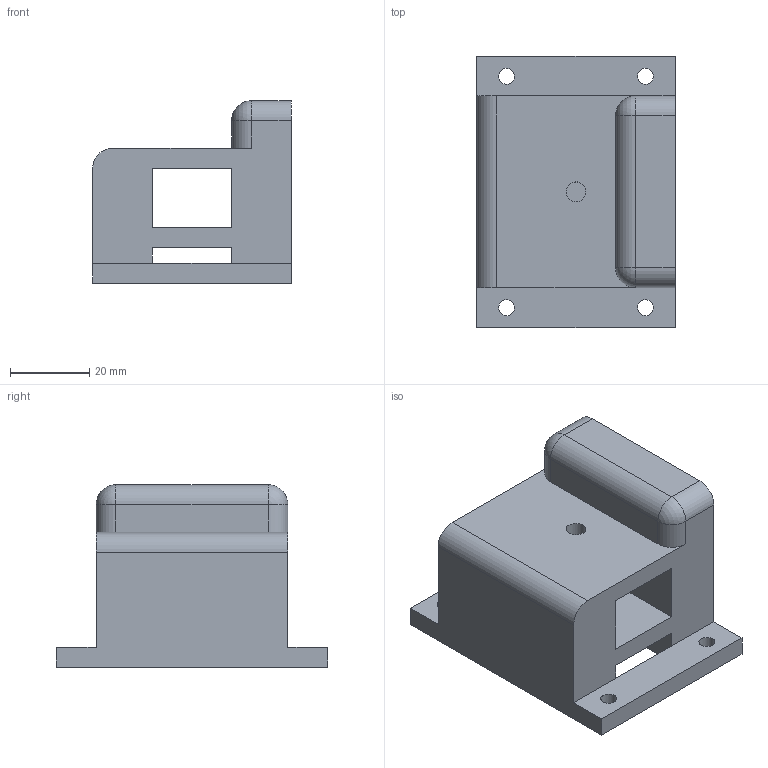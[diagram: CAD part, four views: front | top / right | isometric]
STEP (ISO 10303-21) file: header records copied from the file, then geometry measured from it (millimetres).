
FILE_DESCRIPTION(('CATIA V5 STEP Exchange'),'2;1');
FILE_NAME('C:\Users\user\Documents\Jakob\BAC - Arbeit 1\CAD Modell\CAD-Modell-Step files\rod mount\secondary\secondary rod mount.stp','2018-12-13T14:03:20+00:00',('none'),('none'),'Version 5-6 Release 2012','CATIA V5 STEP AP203','none');
FILE_SCHEMA(('CONFIG_CONTROL_DESIGN'));
Length unit declared in the file: millimetre
Products named in the file (1): secondary rod mount
Bounding box: 50 x 68.3 x 46 mm (x, y, z)
Volume: 61933.7 mm3; surface area: 19092.7 mm2
Topology: 1 solids, 1 shells, 55 faces, 157 edges, 99 vertices
Faces by surface type: plane 31, cylinder 22, sphere 2
Entity records: 1708 total; most frequent: ORIENTED_EDGE 310, CARTESIAN_POINT 291, DIRECTION 227, EDGE_CURVE 155, VECTOR 111, LINE 111, VERTEX_POINT 99, AXIS2_PLACEMENT_3D 81
